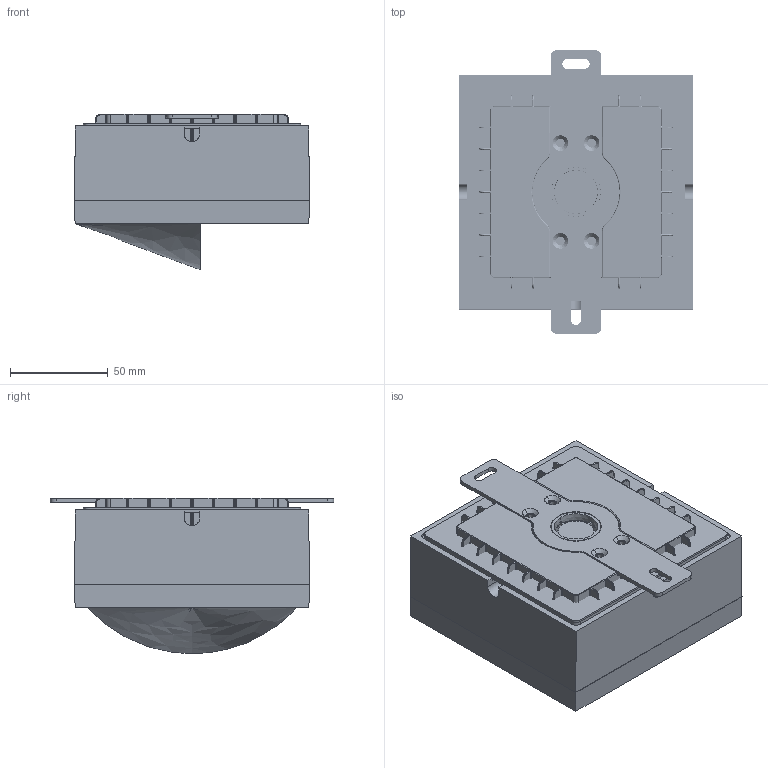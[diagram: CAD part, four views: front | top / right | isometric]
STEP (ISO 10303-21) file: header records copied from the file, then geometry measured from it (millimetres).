
FILE_DESCRIPTION((''),'2;1');
FILE_NAME('120-FBD_ASM','2021-07-26T',('Administrator'),(''),'PRO/ENGINEER BY PARAMETRIC TECHNOLOGY CORPORATION, 2010480','PRO/ENGINEER BY PARAMETRIC TECHNOLOGY CORPORATION, 2010480','');
FILE_SCHEMA(('CONFIG_CONTROL_DESIGN'));
Products named in the file (26): 1CV_; 7SQW18_FL2_15_6; 7SQW16-180-1_14; 120-YMT-DP_2; ZHUAN_JIE_BAN; M5_____; 120-YMT_ASM_10_ASM; 7CV; 7SQW18_KAHUANG_21_9; 120-FSQ_5; SCREW-M12_1_19; XINGUIJIAO_15; GUIJIAOSAI-005_9; LUOMUZUJIAN_ASM_15_ASM; M14_ASM; M4-8; M3-L6; 120-DT_ASM_11_ASM; MG4-BL_3; MG4-SRB_6; MG4-LJB_3; 1CY-02; DIAN_YUAN; 1CY_ASM; 120-FBD_ASM_89_ASM; 120-FBD_ASM
Assembly tree (35 placements, depth 6):
  120-FBD_ASM
    120-FBD_ASM_89_ASM
      120-YMT_ASM_10_ASM
        1CV_
        7SQW18_FL2_15_6
        7SQW16-180-1_14
        120-YMT-DP_2
        ZHUAN_JIE_BAN
        M5_____  x2
      120-DT_ASM_11_ASM
        7CV
        7SQW18_KAHUANG_21_9  x4
        120-FSQ_5
        M14_ASM
          LUOMUZUJIAN_ASM_15_ASM
            SCREW-M12_1_19
            XINGUIJIAO_15
            GUIJIAOSAI-005_9
        M4-8  x4
        M3-L6  x4
      1CY_ASM
        MG4-BL_3
        MG4-SRB_6
        MG4-LJB_3
        1CY-02
        DIAN_YUAN
Bounding box: 120.05 x 145 x 79.51 mm (x, y, z)
Volume: 329842.4 mm3; surface area: 335726.4 mm2
Topology: 29 solids, 29 shells, 3430 faces, 8701 edges, 5385 vertices
Faces by surface type: cylinder 1359, plane 1195, bspline 485, cone 176, torus 119, sphere 96
Entity records: 118104 total; most frequent: CARTESIAN_POINT 49979, ORIENTED_EDGE 14702, DIRECTION 13243, EDGE_CURVE 7351, AXIS2_PLACEMENT_3D 4667, VERTEX_POINT 4540, VECTOR 3909, LINE 3909
